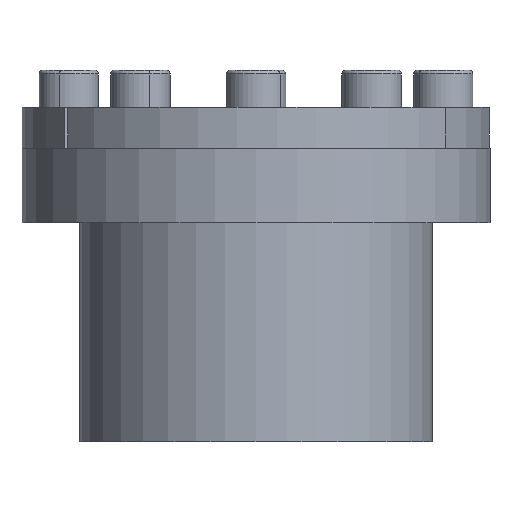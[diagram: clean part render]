
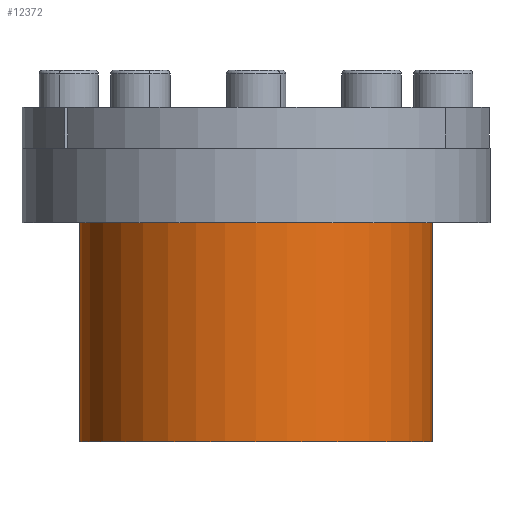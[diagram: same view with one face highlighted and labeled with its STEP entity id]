
A CAD part, front view. The second image highlights one B-rep face of the part: STEP entity #12372.
In plain terms, the highlighted cylindrical face has radius 47.5 mm (diameter 95 mm), a partial arc.
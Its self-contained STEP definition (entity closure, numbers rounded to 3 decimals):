
#544 = CARTESIAN_POINT ( 'NONE',  ( -47.5, 0., -13.6 ) ) ;
#706 = CARTESIAN_POINT ( 'NONE',  ( 47.5, 0., -13.6 ) ) ;
#713 = CARTESIAN_POINT ( 'NONE',  ( 0., 0., -73. ) ) ;
#916 = ORIENTED_EDGE ( 'NONE', *, *, #7443, .F. ) ;
#1192 = LINE ( 'NONE', #3010, #13710 ) ;
#1260 = LINE ( 'NONE', #3116, #14173 ) ;
#1944 = DIRECTION ( 'NONE',  ( -1., 0., 0. ) ) ;
#2005 = DIRECTION ( 'NONE',  ( 0., 0., -1. ) ) ;
#2008 = EDGE_CURVE ( 'NONE', #4529, #5365, #1192, .T. ) ;
#2479 = ORIENTED_EDGE ( 'NONE', *, *, #10424, .F. ) ;
#2875 = FACE_OUTER_BOUND ( 'NONE', #8878, .T. ) ;
#3010 = CARTESIAN_POINT ( 'NONE',  ( -47.5, 0., -13. ) ) ;
#3116 = CARTESIAN_POINT ( 'NONE',  ( 47.5, 0., -13. ) ) ;
#3729 = CIRCLE ( 'NONE', #14935, 47.5 ) ;
#3931 = ORIENTED_EDGE ( 'NONE', *, *, #10425, .T. ) ;
#4284 = CARTESIAN_POINT ( 'NONE',  ( 47.5, 0., -73. ) ) ;
#4321 = DIRECTION ( 'NONE',  ( 0., 0., -1. ) ) ;
#4529 = VERTEX_POINT ( 'NONE', #544 ) ;
#5365 = VERTEX_POINT ( 'NONE', #14973 ) ;
#7326 = CIRCLE ( 'NONE', #11960, 47.5 ) ;
#7443 = EDGE_CURVE ( 'NONE', #11977, #5365, #3729, .T. ) ;
#8878 = EDGE_LOOP ( 'NONE', ( #2479, #3931, #14037, #916 ) ) ;
#9196 = DIRECTION ( 'NONE',  ( 0., 0., -1. ) ) ;
#9256 = CARTESIAN_POINT ( 'NONE',  ( 0., 0., -13.6 ) ) ;
#10424 = EDGE_CURVE ( 'NONE', #11372, #11977, #1260, .T. ) ;
#10425 = EDGE_CURVE ( 'NONE', #11372, #4529, #7326, .T. ) ;
#10475 = DIRECTION ( 'NONE',  ( -1., 0., 0. ) ) ;
#10859 = CYLINDRICAL_SURFACE ( 'NONE', #14805, 47.5 ) ;
#11372 = VERTEX_POINT ( 'NONE', #706 ) ;
#11960 = AXIS2_PLACEMENT_3D ( 'NONE', #9256, #2005, #10475 ) ;
#11977 = VERTEX_POINT ( 'NONE', #4284 ) ;
#12300 = DIRECTION ( 'NONE',  ( 0., 0., -1. ) ) ;
#12372 = ADVANCED_FACE ( 'NONE', ( #2875 ), #10859, .T. ) ;
#12406 = DIRECTION ( 'NONE',  ( -1., 0., 0. ) ) ;
#12723 = DIRECTION ( 'NONE',  ( 0., 0., -1. ) ) ;
#13558 = CARTESIAN_POINT ( 'NONE',  ( 0., 0., -13. ) ) ;
#13710 = VECTOR ( 'NONE', #12723, 1000. ) ;
#14037 = ORIENTED_EDGE ( 'NONE', *, *, #2008, .T. ) ;
#14173 = VECTOR ( 'NONE', #4321, 1000. ) ;
#14805 = AXIS2_PLACEMENT_3D ( 'NONE', #13558, #12300, #12406 ) ;
#14935 = AXIS2_PLACEMENT_3D ( 'NONE', #713, #9196, #1944 ) ;
#14973 = CARTESIAN_POINT ( 'NONE',  ( -47.5, 0., -73. ) ) ;
